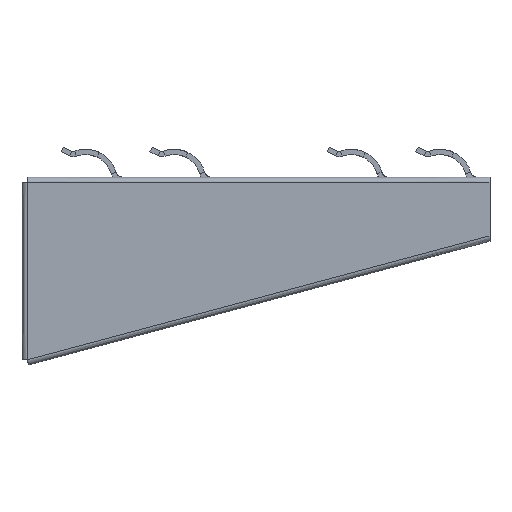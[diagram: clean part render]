
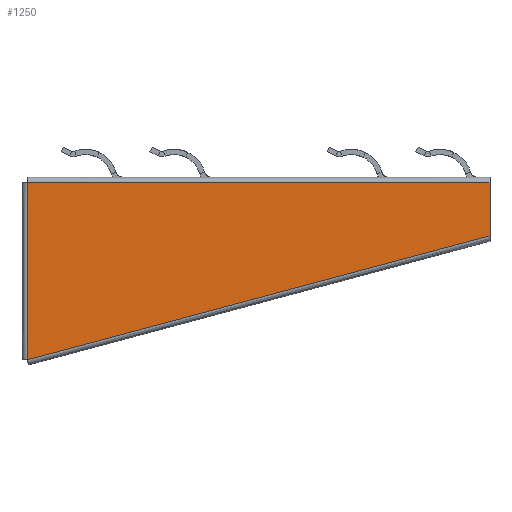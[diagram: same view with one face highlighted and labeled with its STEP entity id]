
A CAD part, left-side view. The second image highlights one B-rep face of the part: STEP entity #1250.
In plain terms, the highlighted planar face has unit normal (-1, 0, 0).
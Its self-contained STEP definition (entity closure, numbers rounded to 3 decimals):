
#56=PLANE($,#3803);
#1250=ADVANCED_FACE($,(#1357),#56,.T.);
#1357=FACE_OUTER_BOUND($,#1474,.T.);
#1474=EDGE_LOOP($,(#2025,#2026,#2027,#2028));
#2025=ORIENTED_EDGE($,*,*,#2582,.T.);
#2026=ORIENTED_EDGE($,*,*,#2579,.T.);
#2027=ORIENTED_EDGE($,*,*,#2580,.T.);
#2028=ORIENTED_EDGE($,*,*,#2581,.F.);
#2579=EDGE_CURVE($,#3134,#3133,#3454,.T.);
#2580=EDGE_CURVE($,#3133,#3135,#3455,.T.);
#2581=EDGE_CURVE($,#3136,#3135,#3747,.T.);
#2582=EDGE_CURVE($,#3136,#3134,#3456,.T.);
#3133=VERTEX_POINT($,#8362);
#3134=VERTEX_POINT($,#8363);
#3135=VERTEX_POINT($,#8364);
#3136=VERTEX_POINT($,#8365);
#3454=B_SPLINE_CURVE_WITH_KNOTS($,1,(#8351,#8352),.UNSPECIFIED.,.F.,.F.,
(2,2),(-130.5,0.),.UNSPECIFIED.);
#3455=B_SPLINE_CURVE_WITH_KNOTS($,1,(#8353,#8354),.UNSPECIFIED.,.F.,.F.,
(2,2),(-50.,0.),.UNSPECIFIED.);
#3456=B_SPLINE_CURVE_WITH_KNOTS($,1,(#8359,#8360),.UNSPECIFIED.,.F.,.F.,
(2,2),(34.967,50.),.UNSPECIFIED.);
#3747=(
BOUNDED_CURVE()
B_SPLINE_CURVE(3,(#8355,#8356,#8357,#8358),.UNSPECIFIED.,.F.,.F.)
B_SPLINE_CURVE_WITH_KNOTS((4,4),(0.,135.104),.UNSPECIFIED.)
CURVE()
GEOMETRIC_REPRESENTATION_ITEM()
RATIONAL_B_SPLINE_CURVE((1.,1.,1.,1.))
REPRESENTATION_ITEM($)
);
#3803=AXIS2_PLACEMENT_3D($,#8361,#3842,$);
#3842=DIRECTION($,(-1.,0.,0.));
#8351=CARTESIAN_POINT($,(-14.75,-132.,0.));
#8352=CARTESIAN_POINT($,(-14.75,-1.5,0.));
#8353=CARTESIAN_POINT($,(-14.75,-1.5,0.));
#8354=CARTESIAN_POINT($,(-14.75,-1.5,-50.));
#8355=CARTESIAN_POINT($,(-14.75,-132.,-15.033));
#8356=CARTESIAN_POINT($,(-14.75,-88.5,-26.688));
#8357=CARTESIAN_POINT($,(-14.75,-45.,-38.344));
#8358=CARTESIAN_POINT($,(-14.75,-1.5,-50.));
#8359=CARTESIAN_POINT($,(-14.75,-132.,-15.033));
#8360=CARTESIAN_POINT($,(-14.75,-132.,0.));
#8361=CARTESIAN_POINT($,(-14.75,-132.,-50.));
#8362=CARTESIAN_POINT($,(-14.75,-1.5,0.));
#8363=CARTESIAN_POINT($,(-14.75,-132.,0.));
#8364=CARTESIAN_POINT($,(-14.75,-1.5,-50.));
#8365=CARTESIAN_POINT($,(-14.75,-132.,-15.033));
